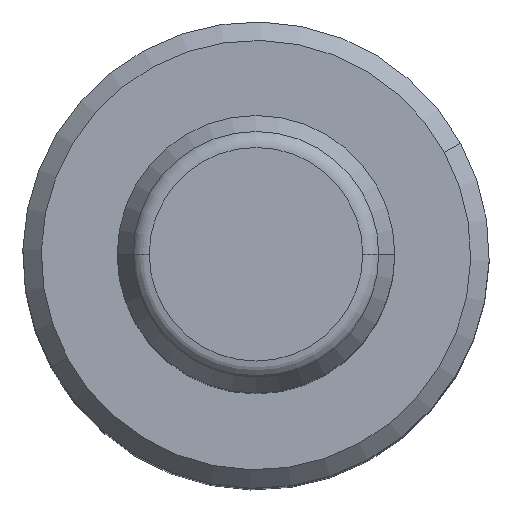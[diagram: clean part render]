
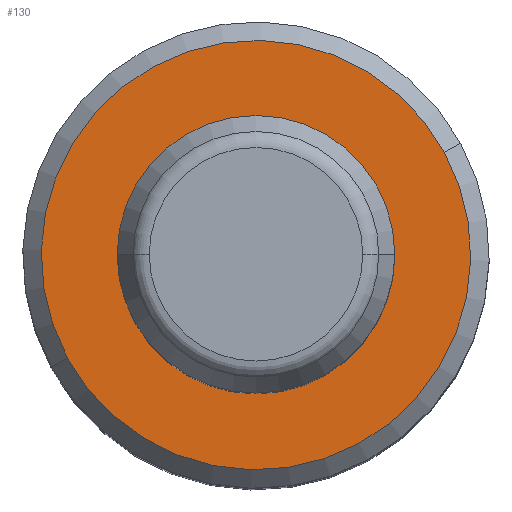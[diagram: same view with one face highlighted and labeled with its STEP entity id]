
A CAD part, top view. The second image highlights one B-rep face of the part: STEP entity #130.
In plain terms, the highlighted planar face has unit normal (0, 0, 1).
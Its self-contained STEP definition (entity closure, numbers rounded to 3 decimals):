
#107=CARTESIAN_POINT('Axis2P3D Location',(11.6,0.,54.)) ;
#112=CARTESIAN_POINT('Axis2P3D Location',(0.,0.,54.)) ;
#116=CARTESIAN_POINT('Vertex',(10.18,5.561,54.)) ;
#118=CARTESIAN_POINT('Vertex',(-10.18,-5.561,54.)) ;
#121=CARTESIAN_POINT('Axis2P3D Location',(0.,0.,54.)) ;
#108=DIRECTION('Axis2P3D Direction',(0.,0.,1.)) ;
#109=DIRECTION('Axis2P3D XDirection',(1.,0.,0.)) ;
#113=DIRECTION('Axis2P3D Direction',(0.,0.,1.)) ;
#122=DIRECTION('Axis2P3D Direction',(0.,0.,1.)) ;
#110=AXIS2_PLACEMENT_3D('Plane Axis2P3D',#107,#108,#109) ;
#114=AXIS2_PLACEMENT_3D('Circle Axis2P3D',#112,#113,$) ;
#123=AXIS2_PLACEMENT_3D('Circle Axis2P3D',#121,#122,$) ;
#127=ORIENTED_EDGE('',*,*,#120,.T.) ;
#128=ORIENTED_EDGE('',*,*,#125,.T.) ;
#130=ADVANCED_FACE('',(#129),#111,.T.) ;
#115=CIRCLE('generated circle',#114,11.6) ;
#124=CIRCLE('generated circle',#123,11.6) ;
#120=EDGE_CURVE('',#117,#119,#115,.T.) ;
#125=EDGE_CURVE('',#119,#117,#124,.T.) ;
#126=EDGE_LOOP('',(#127,#128)) ;
#129=FACE_OUTER_BOUND('',#126,.T.) ;
#111=PLANE('Plane',#110) ;
#117=VERTEX_POINT('',#116) ;
#119=VERTEX_POINT('',#118) ;
